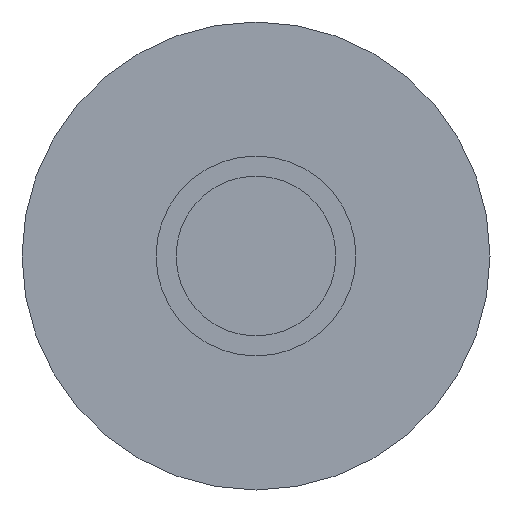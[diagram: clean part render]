
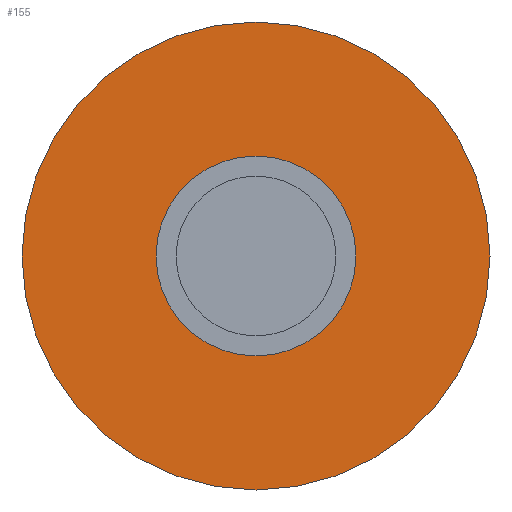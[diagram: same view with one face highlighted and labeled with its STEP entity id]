
A CAD part, front view. The second image highlights one B-rep face of the part: STEP entity #155.
In plain terms, the highlighted planar face has unit normal (0, -1, 0).
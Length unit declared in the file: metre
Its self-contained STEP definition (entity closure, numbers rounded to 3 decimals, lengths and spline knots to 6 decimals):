
#12=PLANE('',#187);
#24=ORIENTED_EDGE('',*,*,#52,.F.);
#25=ORIENTED_EDGE('',*,*,#50,.T.);
#50=EDGE_CURVE('',#64,#64,#78,.T.);
#52=EDGE_CURVE('',#66,#66,#80,.T.);
#64=VERTEX_POINT('',#278);
#66=VERTEX_POINT('',#283);
#78=CIRCLE('',#185,0.0175);
#80=CIRCLE('',#188,0.007475);
#94=EDGE_LOOP('',(#24));
#95=EDGE_LOOP('',(#25));
#122=FACE_BOUND('',#94,.T.);
#123=FACE_BOUND('',#95,.T.);
#155=ADVANCED_FACE('',(#122,#123),#12,.T.);
#185=AXIS2_PLACEMENT_3D('',#277,#220,#221);
#187=AXIS2_PLACEMENT_3D('',#281,#224,#225);
#188=AXIS2_PLACEMENT_3D('',#282,#226,#227);
#220=DIRECTION('',(0.,-1.,0.));
#221=DIRECTION('',(0.,0.,-1.));
#224=DIRECTION('',(0.,-1.,0.));
#225=DIRECTION('',(1.,0.,0.));
#226=DIRECTION('',(0.,-1.,0.));
#227=DIRECTION('',(0.,0.,-1.));
#277=CARTESIAN_POINT('',(0.,-0.0615,0.));
#278=CARTESIAN_POINT('',(0.,-0.0615,-0.0175));
#281=CARTESIAN_POINT('',(0.,-0.0615,0.));
#282=CARTESIAN_POINT('',(0.,-0.0615,0.));
#283=CARTESIAN_POINT('',(0.,-0.0615,-0.007475));
